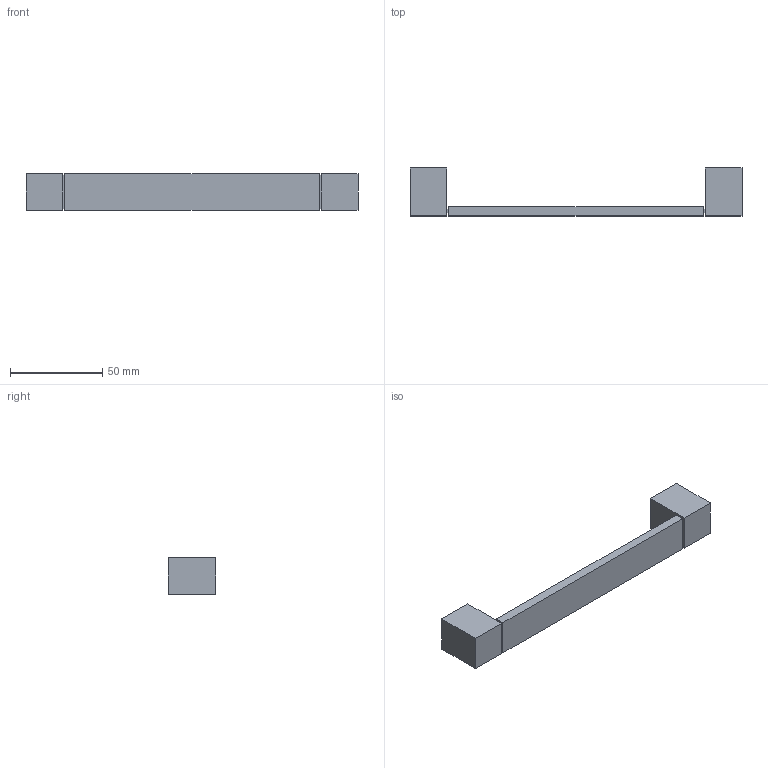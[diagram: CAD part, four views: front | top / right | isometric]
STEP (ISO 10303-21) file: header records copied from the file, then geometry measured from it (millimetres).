
FILE_DESCRIPTION( ( 'STEP AP214' ), '1' );
FILE_NAME( 'D:/Yug/2020/ProDecor_2020/QC/9264060.stp', '2020-06-01T11:45:31', ( '' ), ( '' ), ' ', 'PARTsolutions', ' ' );
FILE_SCHEMA( ( 'AUTOMOTIVE_DESIGN { 1 0 10303 214 1 1 1 1 }' ) );
Length unit declared in the file: millimetre
Products named in the file (1): _9264060
Bounding box: 180 x 26 x 20 mm (x, y, z)
Volume: 34539.3 mm3; surface area: 12959.4 mm2
Topology: 1 solids, 1 shells, 30 faces, 66 edges, 44 vertices
Faces by surface type: plane 28, cylinder 2
Full cylindrical faces by diameter (mm): 3.25 x2
Entity records: 1060 total; most frequent: CARTESIAN_POINT 139, DIRECTION 130, ORIENTED_EDGE 128, EDGE_CURVE 64, LINE 60, VECTOR 60, VERTEX_POINT 44, EDGE_LOOP 38
